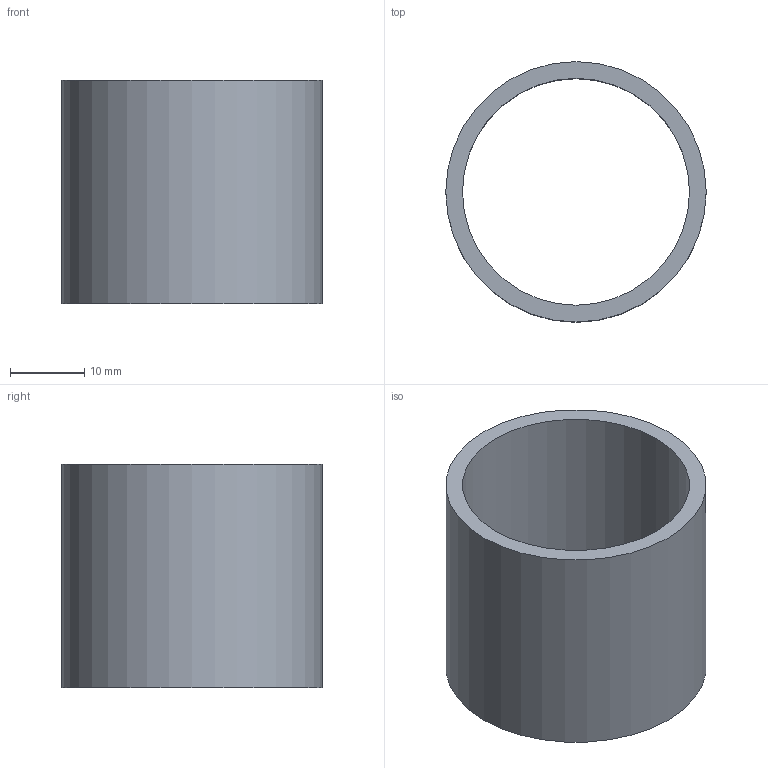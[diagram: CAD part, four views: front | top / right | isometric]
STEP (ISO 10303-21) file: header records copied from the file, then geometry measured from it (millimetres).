
FILE_DESCRIPTION( ( 'Unknown' ), '1' );
FILE_NAME( 'F:/navkite transat/construction/2016/3D ET ASSEMBLAGES/self tailing/WI 07.stp', 'Unknown', ( 'GMA' ), ( 'Unknown' ), 'XStep 1.0', 'Unknown', ' ' );
FILE_SCHEMA( ( 'automotive_design' ) );
Length unit declared in the file: millimetre
Products named in the file (1): 1
Bounding box: 35 x 35 x 30 mm (x, y, z)
Volume: 6944.9 mm3; surface area: 6636.2 mm2
Topology: 1 solids, 1 shells, 4 faces, 6 edges, 4 vertices
Faces by surface type: cylinder 2, plane 2
Full cylindrical faces by diameter (mm): 30.5 x1, 35 x1
Entity records: 136 total; most frequent: DIRECTION 18, CARTESIAN_POINT 13, AXIS2_PLACEMENT_3D 9, EDGE_LOOP 8, ORIENTED_EDGE 8, FACE_OUTER_BOUND 6, STYLED_ITEM 4, PRESENTATION_STYLE_ASSIGNMENT 4
